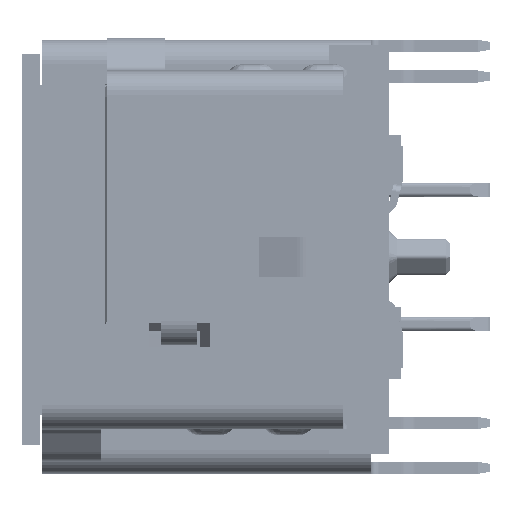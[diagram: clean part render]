
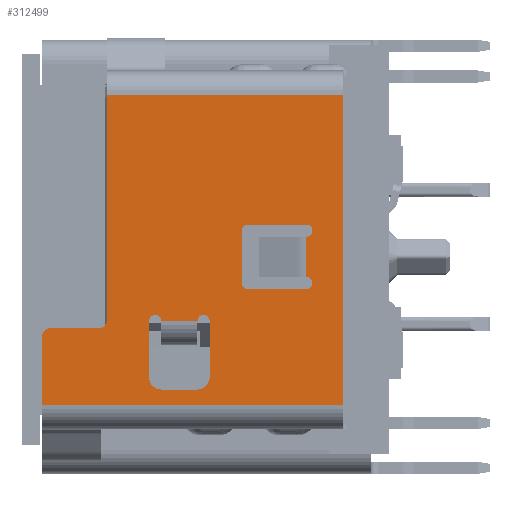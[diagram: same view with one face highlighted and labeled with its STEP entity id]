
A CAD part, left-side view. The second image highlights one B-rep face of the part: STEP entity #312499.
In plain terms, the highlighted planar face has unit normal (-1, 0, 0).
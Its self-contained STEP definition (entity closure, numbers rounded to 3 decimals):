
#33137=DIRECTION('',(0.,-1.,0.));
#33138=VECTOR('',#33137,7.45);
#33139=CARTESIAN_POINT('',(-26.55,8.9,-3.67));
#33140=LINE('',#33139,#33138);
#94582=DIRECTION('',(0.,1.,0.));
#94583=VECTOR('',#94582,5.85);
#94584=CARTESIAN_POINT('',(-26.55,1.45,4.02));
#94585=LINE('',#94584,#94583);
#94590=DIRECTION('',(0.,0.,1.));
#94591=VECTOR('',#94590,5.59);
#94592=CARTESIAN_POINT('',(-26.55,7.3,-1.57));
#94593=LINE('',#94592,#94591);
#94594=DIRECTION('',(0.,0.,-1.));
#94595=VECTOR('',#94594,7.69);
#94596=CARTESIAN_POINT('',(-26.55,1.45,4.02));
#94597=LINE('',#94596,#94595);
#94598=DIRECTION('',(0.,0.,1.));
#94599=VECTOR('',#94598,1.7);
#94600=CARTESIAN_POINT('',(-26.55,8.9,-3.67));
#94601=LINE('',#94600,#94599);
#94602=CARTESIAN_POINT('',(-26.55,8.7,-1.97));
#94603=DIRECTION('',(1.,0.,0.));
#94604=DIRECTION('',(0.,1.,0.));
#94605=AXIS2_PLACEMENT_3D('',#94602,#94603,#94604);
#94607=CARTESIAN_POINT('',(-26.55,7.5,-1.57));
#94608=DIRECTION('',(-1.,0.,0.));
#94609=DIRECTION('',(0.,0.,-1.));
#94610=AXIS2_PLACEMENT_3D('',#94607,#94608,#94609);
#94612=CARTESIAN_POINT('',(-26.55,5.05,-2.99));
#94613=DIRECTION('',(-1.,0.,0.));
#94614=DIRECTION('',(0.,0.,-1.));
#94615=AXIS2_PLACEMENT_3D('',#94612,#94613,#94614);
#94617=CARTESIAN_POINT('',(-26.55,4.9,-1.59));
#94618=DIRECTION('',(-1.,0.,0.));
#94619=DIRECTION('',(0.,-1.,0.));
#94620=AXIS2_PLACEMENT_3D('',#94617,#94618,#94619);
#94622=CARTESIAN_POINT('',(-26.55,6.1,-1.59));
#94623=DIRECTION('',(-1.,0.,0.));
#94624=DIRECTION('',(0.,-1.,0.));
#94625=AXIS2_PLACEMENT_3D('',#94622,#94623,#94624);
#94627=CARTESIAN_POINT('',(-26.55,5.95,-2.99));
#94628=DIRECTION('',(-1.,0.,0.));
#94629=DIRECTION('',(0.,1.,0.));
#94630=AXIS2_PLACEMENT_3D('',#94627,#94628,#94629);
#94632=CARTESIAN_POINT('',(-26.55,2.35,0.65));
#94633=DIRECTION('',(-1.,0.,0.));
#94634=DIRECTION('',(0.,0.,-1.));
#94635=AXIS2_PLACEMENT_3D('',#94632,#94633,#94634);
#94637=CARTESIAN_POINT('',(-26.55,3.8,0.65));
#94638=DIRECTION('',(-1.,0.,0.));
#94639=DIRECTION('',(0.,0.,1.));
#94640=AXIS2_PLACEMENT_3D('',#94637,#94638,#94639);
#94642=CARTESIAN_POINT('',(-26.55,3.8,-0.65));
#94643=DIRECTION('',(-1.,0.,0.));
#94644=DIRECTION('',(0.,1.,0.));
#94645=AXIS2_PLACEMENT_3D('',#94642,#94643,#94644);
#94647=CARTESIAN_POINT('',(-26.55,2.35,-0.65));
#94648=DIRECTION('',(-1.,0.,0.));
#94649=DIRECTION('',(0.,0.,-1.));
#94650=AXIS2_PLACEMENT_3D('',#94647,#94648,#94649);
#94872=DIRECTION('',(0.,1.,0.));
#94873=VECTOR('',#94872,1.2);
#94874=CARTESIAN_POINT('',(-26.55,7.5,-1.77));
#94875=LINE('',#94874,#94873);
#95307=DIRECTION('',(0.,0.,-1.));
#95308=VECTOR('',#95307,1.4);
#95309=CARTESIAN_POINT('',(-26.55,4.75,-1.59));
#95310=LINE('',#95309,#95308);
#95323=DIRECTION('',(0.,1.,0.));
#95324=VECTOR('',#95323,0.9);
#95325=CARTESIAN_POINT('',(-26.55,5.05,-3.29));
#95326=LINE('',#95325,#95324);
#95335=DIRECTION('',(0.,0.,1.));
#95336=VECTOR('',#95335,1.4);
#95337=CARTESIAN_POINT('',(-26.55,6.25,-2.99));
#95338=LINE('',#95337,#95336);
#95369=DIRECTION('',(0.,-1.,0.));
#95370=VECTOR('',#95369,0.9);
#95371=CARTESIAN_POINT('',(-26.55,5.95,-1.59));
#95372=LINE('',#95371,#95370);
#95815=DIRECTION('',(0.,-1.,0.));
#95816=VECTOR('',#95815,1.45);
#95817=CARTESIAN_POINT('',(-26.55,3.8,0.8));
#95818=LINE('',#95817,#95816);
#95827=DIRECTION('',(0.,0.,1.));
#95828=VECTOR('',#95827,1.3);
#95829=CARTESIAN_POINT('',(-26.55,3.95,-0.65));
#95830=LINE('',#95829,#95828);
#95839=DIRECTION('',(0.,1.,0.));
#95840=VECTOR('',#95839,1.45);
#95841=CARTESIAN_POINT('',(-26.55,2.35,-0.8));
#95842=LINE('',#95841,#95840);
#95885=DIRECTION('',(0.,0.,-1.));
#95886=VECTOR('',#95885,1.);
#95887=CARTESIAN_POINT('',(-26.55,2.35,0.5));
#95888=LINE('',#95887,#95886);
#156317=CARTESIAN_POINT('',(-26.55,1.45,-3.67));
#156318=VERTEX_POINT('',#156317);
#156443=CARTESIAN_POINT('',(-26.55,7.3,4.02));
#156444=VERTEX_POINT('',#156443);
#156445=CARTESIAN_POINT('',(-26.55,7.3,-1.57));
#156446=VERTEX_POINT('',#156445);
#156453=CARTESIAN_POINT('',(-26.55,1.45,4.02));
#156454=VERTEX_POINT('',#156453);
#156455=CARTESIAN_POINT('',(-26.55,8.9,-3.67));
#156456=VERTEX_POINT('',#156455);
#156457=CARTESIAN_POINT('',(-26.55,8.9,-1.97));
#156458=VERTEX_POINT('',#156457);
#156459=CARTESIAN_POINT('',(-26.55,8.7,-1.77));
#156460=VERTEX_POINT('',#156459);
#156461=CARTESIAN_POINT('',(-26.55,7.5,-1.77));
#156462=VERTEX_POINT('',#156461);
#156463=CARTESIAN_POINT('',(-26.55,5.05,-3.29));
#156464=CARTESIAN_POINT('',(-26.55,5.95,-3.29));
#156465=VERTEX_POINT('',#156463);
#156466=VERTEX_POINT('',#156464);
#156467=CARTESIAN_POINT('',(-26.55,4.75,-2.99));
#156468=VERTEX_POINT('',#156467);
#156469=CARTESIAN_POINT('',(-26.55,4.75,-1.59));
#156470=VERTEX_POINT('',#156469);
#156471=CARTESIAN_POINT('',(-26.55,5.05,-1.59));
#156472=VERTEX_POINT('',#156471);
#156473=CARTESIAN_POINT('',(-26.55,5.95,-1.59));
#156474=VERTEX_POINT('',#156473);
#156475=CARTESIAN_POINT('',(-26.55,6.25,-1.59));
#156476=VERTEX_POINT('',#156475);
#156477=CARTESIAN_POINT('',(-26.55,6.25,-2.99));
#156478=VERTEX_POINT('',#156477);
#156479=CARTESIAN_POINT('',(-26.55,2.35,0.5));
#156480=CARTESIAN_POINT('',(-26.55,2.35,-0.5));
#156481=VERTEX_POINT('',#156479);
#156482=VERTEX_POINT('',#156480);
#156483=CARTESIAN_POINT('',(-26.55,2.35,0.8));
#156484=VERTEX_POINT('',#156483);
#156485=CARTESIAN_POINT('',(-26.55,3.8,0.8));
#156486=VERTEX_POINT('',#156485);
#156487=CARTESIAN_POINT('',(-26.55,3.95,0.65));
#156488=VERTEX_POINT('',#156487);
#156489=CARTESIAN_POINT('',(-26.55,3.95,-0.65));
#156490=VERTEX_POINT('',#156489);
#156491=CARTESIAN_POINT('',(-26.55,3.8,-0.8));
#156492=VERTEX_POINT('',#156491);
#156493=CARTESIAN_POINT('',(-26.55,2.35,-0.8));
#156494=VERTEX_POINT('',#156493);
#312444=CARTESIAN_POINT('',(-26.55,0.75,-3.67));
#312445=DIRECTION('',(-1.,0.,0.));
#312446=DIRECTION('',(0.,0.,1.));
#312447=AXIS2_PLACEMENT_3D('',#312444,#312445,#312446);
#312448=PLANE('',#312447);
#312450=ORIENTED_EDGE('',*,*,#312449,.T.);
#312451=ORIENTED_EDGE('',*,*,#312436,.F.);
#312452=ORIENTED_EDGE('',*,*,#229892,.T.);
#312453=ORIENTED_EDGE('',*,*,#229930,.F.);
#312454=ORIENTED_EDGE('',*,*,#230010,.T.);
#312456=ORIENTED_EDGE('',*,*,#312455,.T.);
#312458=ORIENTED_EDGE('',*,*,#312457,.F.);
#312460=ORIENTED_EDGE('',*,*,#312459,.T.);
#312461=EDGE_LOOP('',(#312450,#312451,#312452,#312453,#312454,#312456,#312458,
#312460));
#312462=FACE_OUTER_BOUND('',#312461,.F.);
#312464=ORIENTED_EDGE('',*,*,#312463,.F.);
#312466=ORIENTED_EDGE('',*,*,#312465,.T.);
#312468=ORIENTED_EDGE('',*,*,#312467,.F.);
#312470=ORIENTED_EDGE('',*,*,#312469,.T.);
#312472=ORIENTED_EDGE('',*,*,#312471,.F.);
#312474=ORIENTED_EDGE('',*,*,#312473,.T.);
#312476=ORIENTED_EDGE('',*,*,#312475,.F.);
#312478=ORIENTED_EDGE('',*,*,#312477,.T.);
#312479=EDGE_LOOP('',(#312464,#312466,#312468,#312470,#312472,#312474,#312476,
#312478));
#312480=FACE_BOUND('',#312479,.F.);
#312482=ORIENTED_EDGE('',*,*,#312481,.F.);
#312484=ORIENTED_EDGE('',*,*,#312483,.T.);
#312486=ORIENTED_EDGE('',*,*,#312485,.F.);
#312488=ORIENTED_EDGE('',*,*,#312487,.T.);
#312490=ORIENTED_EDGE('',*,*,#312489,.F.);
#312492=ORIENTED_EDGE('',*,*,#312491,.T.);
#312494=ORIENTED_EDGE('',*,*,#312493,.F.);
#312496=ORIENTED_EDGE('',*,*,#312495,.T.);
#312497=EDGE_LOOP('',(#312482,#312484,#312486,#312488,#312490,#312492,#312494,
#312496));
#312498=FACE_BOUND('',#312497,.F.);
#312499=ADVANCED_FACE('',(#312462,#312480,#312498),#312448,.T.);
#94606=CIRCLE('',#94605,0.2);
#94611=CIRCLE('',#94610,0.2);
#94616=CIRCLE('',#94615,0.3);
#94621=CIRCLE('',#94620,0.15);
#94626=CIRCLE('',#94625,0.15);
#94631=CIRCLE('',#94630,0.3);
#94636=CIRCLE('',#94635,0.15);
#94641=CIRCLE('',#94640,0.15);
#94646=CIRCLE('',#94645,0.15);
#94651=CIRCLE('',#94650,0.15);
#229892=EDGE_CURVE('',#156454,#156318,#94597,.T.);
#229930=EDGE_CURVE('',#156456,#156318,#33140,.T.);
#230010=EDGE_CURVE('',#156456,#156458,#94601,.T.);
#312436=EDGE_CURVE('',#156454,#156444,#94585,.T.);
#312449=EDGE_CURVE('',#156446,#156444,#94593,.T.);
#312455=EDGE_CURVE('',#156458,#156460,#94606,.T.);
#312457=EDGE_CURVE('',#156462,#156460,#94875,.T.);
#312459=EDGE_CURVE('',#156462,#156446,#94611,.T.);
#312463=EDGE_CURVE('',#156465,#156466,#95326,.T.);
#312465=EDGE_CURVE('',#156465,#156468,#94616,.T.);
#312467=EDGE_CURVE('',#156470,#156468,#95310,.T.);
#312469=EDGE_CURVE('',#156470,#156472,#94621,.T.);
#312471=EDGE_CURVE('',#156474,#156472,#95372,.T.);
#312473=EDGE_CURVE('',#156474,#156476,#94626,.T.);
#312475=EDGE_CURVE('',#156478,#156476,#95338,.T.);
#312477=EDGE_CURVE('',#156478,#156466,#94631,.T.);
#312481=EDGE_CURVE('',#156481,#156482,#95888,.T.);
#312483=EDGE_CURVE('',#156481,#156484,#94636,.T.);
#312485=EDGE_CURVE('',#156486,#156484,#95818,.T.);
#312487=EDGE_CURVE('',#156486,#156488,#94641,.T.);
#312489=EDGE_CURVE('',#156490,#156488,#95830,.T.);
#312491=EDGE_CURVE('',#156490,#156492,#94646,.T.);
#312493=EDGE_CURVE('',#156494,#156492,#95842,.T.);
#312495=EDGE_CURVE('',#156494,#156482,#94651,.T.);
